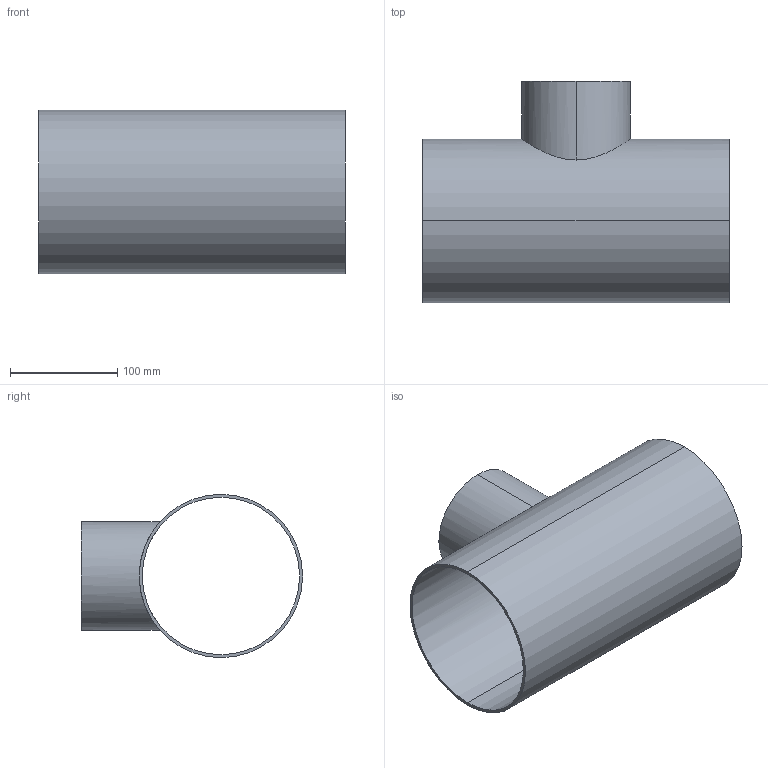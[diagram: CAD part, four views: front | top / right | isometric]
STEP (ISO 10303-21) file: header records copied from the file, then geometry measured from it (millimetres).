
FILE_DESCRIPTION (( 'STEP AP214' ), '1' );
FILE_NAME ('TE7RWWW6L6.0x4.0-...STEP', '2016-05-24T04:37:07', ( 'eran' ), ( '' ), 'SwSTEP 2.0', 'SolidWorks 2016', '' );
FILE_SCHEMA (( 'AUTOMOTIVE_DESIGN' ));
Length unit declared in the file: millimetre
Products named in the file (1): TE7RWWW6L6.0x4.0-..
Bounding box: 285.8 x 206.4 x 152.4 mm (x, y, z)
Volume: 391691.3 mm3; surface area: 295666 mm2
Topology: 1 solids, 1 shells, 11 faces, 24 edges, 16 vertices
Faces by surface type: cylinder 8, plane 3
Entity records: 638 total; most frequent: CARTESIAN_POINT 346, DIRECTION 56, ORIENTED_EDGE 48, EDGE_CURVE 24, AXIS2_PLACEMENT_3D 24, EDGE_LOOP 16, VERTEX_POINT 16, CIRCLE 12
